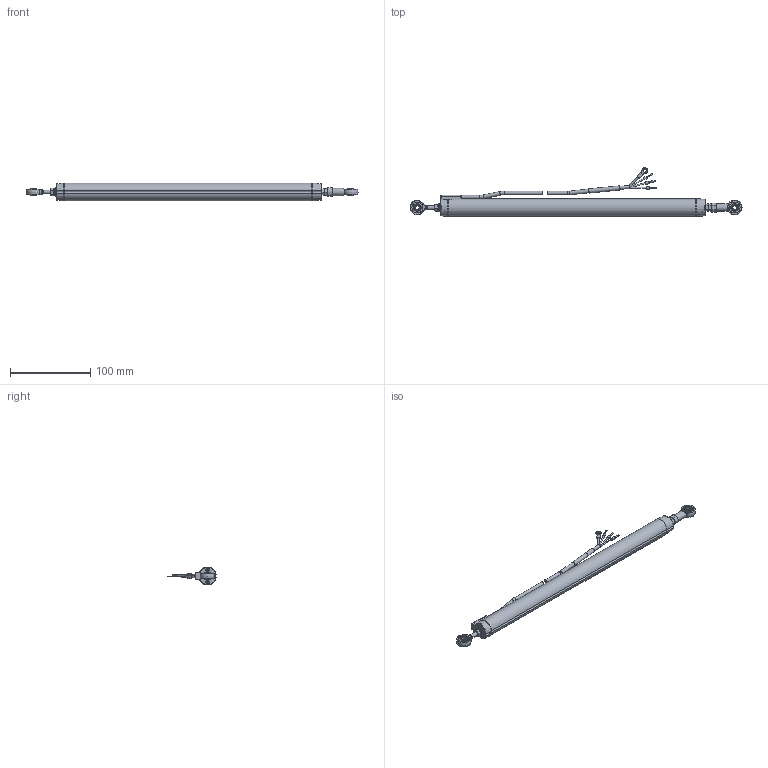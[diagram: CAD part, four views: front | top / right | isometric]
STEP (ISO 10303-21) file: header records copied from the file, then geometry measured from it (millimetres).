
FILE_DESCRIPTION(/* description */ (''),/* implementation_level */ '2;1');
FILE_NAME(/* name */ 'C:\Users\JN\Documents\CAD Drawings\The Sensor Connection\3D\LPPS\LPPS-22 Series\LPPS-22-275\LPPS-22-275.stp',/* time_stamp */ '2018-01-05T12:33:52-05:00',/* author */ ('JN'),/* organization */ (''),/* preprocessor_version */ 'ST-DEVELOPER v15.6',/* originating_system */ 'Autodesk Inventor 2015',/* authorisation */ '');
FILE_SCHEMA (('AUTOMOTIVE_DESIGN { 1 0 10303 214 3 1 1 }'));
Length unit declared in the file: inch
Products named in the file (21): Body_LPPS-22-275; End_sr; Seal; End; Male_rod_end; 91202A230_5_lock; 90591A146_5_hex; 91166A240_5_wash; Rod_LPPS-22-275; Backstop; Female_rod_end; Frontstop; Cable; Cable2; Shrink; Terminal; Brown_pin; Blue_pin; Black_pin; 92005A033_2mm_10mm; LPPS-22-275
Assembly tree (26 placements, depth 2):
  LPPS-22-275
    Body_LPPS-22-275
    End_sr
    Seal  x2
    End
    Male_rod_end
    91202A230_5_lock
    90591A146_5_hex  x3
    91166A240_5_wash
    Rod_LPPS-22-275
    Backstop
    Female_rod_end
    Frontstop
    Cable
    Cable2
    Shrink
    Terminal
    Brown_pin
    Blue_pin
    Black_pin
    92005A033_2mm_10mm  x4
Bounding box: 412.58 x 60.43 x 21.96 mm (x, y, z)
Volume: 67219.7 mm3; surface area: 63742 mm2
Topology: 30 solids, 30 shells, 557 faces, 2336 edges, 1843 vertices
Faces by surface type: plane 202, cylinder 153, cone 138, bspline 28, torus 22, sphere 14
Full cylindrical faces by diameter (mm): 1.27 x3, 1.575 x2, 2.286 x5, 3.175 x5, 3.81 x1, 3.881 x1, 4 x4, 4.134 x1, 4.191 x1, 4.342 x12, 4.572 x5, 4.826 x3, 4.851 x1, 4.953 x1, 5 x15, 5.004 x2, 5.08 x1, 5.207 x1, 5.3 x1, 6.35 x2, 9.144 x1, 10 x1, 12.675 x4, 12.7 x1, 15.875 x2, 17.78 x1
Entity records: 16276 total; most frequent: CARTESIAN_POINT 7317, ORIENTED_EDGE 1840, DIRECTION 1651, EDGE_CURVE 920, VERTEX_POINT 736, AXIS2_PLACEMENT_3D 730, EDGE_LOOP 514, ADVANCED_FACE 353
